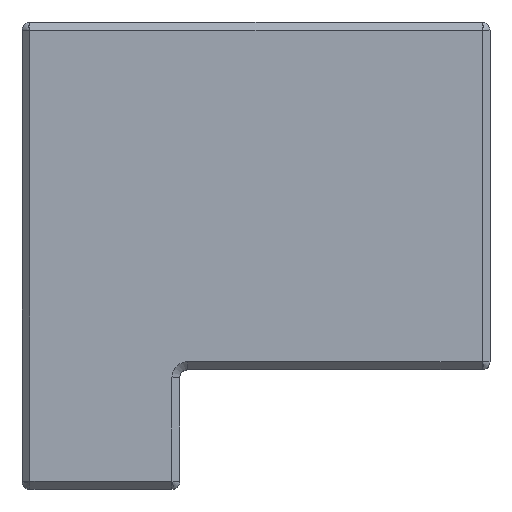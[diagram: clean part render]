
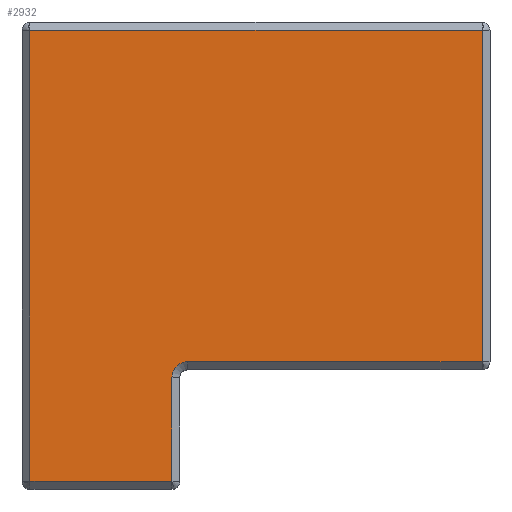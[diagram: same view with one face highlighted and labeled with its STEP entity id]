
A CAD part, top view. The second image highlights one B-rep face of the part: STEP entity #2932.
In plain terms, the highlighted planar face has unit normal (0, 0, 1).
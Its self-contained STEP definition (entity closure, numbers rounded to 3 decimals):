
#654 = PLANE('',#655);
#655 = AXIS2_PLACEMENT_3D('',#656,#657,#658);
#656 = CARTESIAN_POINT('',(71.6,-68.945,18.85));
#657 = DIRECTION('',(0.,0.707,0.707));
#658 = DIRECTION('',(1.,0.,0.));
#1611 = VERTEX_POINT('',#1612);
#1612 = CARTESIAN_POINT('',(71.6,-69.445,19.35));
#1633 = EDGE_CURVE('',#1611,#1634,#1636,.T.);
#1634 = VERTEX_POINT('',#1635);
#1635 = CARTESIAN_POINT('',(128.3,-69.445,19.35));
#1636 = SURFACE_CURVE('',#1637,(#1641,#1648),.PCURVE_S1.);
#1637 = LINE('',#1638,#1639);
#1638 = CARTESIAN_POINT('',(71.6,-69.445,19.35));
#1639 = VECTOR('',#1640,1.);
#1640 = DIRECTION('',(1.,0.,0.));
#1641 = PCURVE('',#654,#1642);
#1642 = DEFINITIONAL_REPRESENTATION('',(#1643),#1647);
#1643 = LINE('',#1644,#1645);
#1644 = CARTESIAN_POINT('',(0.,-0.707));
#1645 = VECTOR('',#1646,1.);
#1646 = DIRECTION('',(1.,0.));
#1647 = ( GEOMETRIC_REPRESENTATION_CONTEXT(2) 
PARAMETRIC_REPRESENTATION_CONTEXT() REPRESENTATION_CONTEXT('2D SPACE',''
  ) );
#1648 = PCURVE('',#1649,#1654);
#1649 = PLANE('',#1650);
#1650 = AXIS2_PLACEMENT_3D('',#1651,#1652,#1653);
#1651 = CARTESIAN_POINT('',(97.462,-95.234,19.35));
#1652 = DIRECTION('',(0.,0.,1.));
#1653 = DIRECTION('',(0.,1.,0.));
#1654 = DEFINITIONAL_REPRESENTATION('',(#1655),#1659);
#1655 = LINE('',#1656,#1657);
#1656 = CARTESIAN_POINT('',(25.789,25.862));
#1657 = VECTOR('',#1658,1.);
#1658 = DIRECTION('',(0.,-1.));
#1659 = ( GEOMETRIC_REPRESENTATION_CONTEXT(2) 
PARAMETRIC_REPRESENTATION_CONTEXT() REPRESENTATION_CONTEXT('2D SPACE',''
  ) );
#2870 = PLANE('',#2871);
#2871 = AXIS2_PLACEMENT_3D('',#2872,#2873,#2874);
#2872 = CARTESIAN_POINT('',(71.1,-126.,18.85));
#2873 = DIRECTION('',(-0.707,0.,0.707));
#2874 = DIRECTION('',(0.,1.,0.));
#2932 = ADVANCED_FACE('',(#2933),#1649,.T.);
#2933 = FACE_BOUND('',#2934,.T.);
#2934 = EDGE_LOOP('',(#2935,#2936,#2959,#2987,#3015,#3044,#3072));
#2935 = ORIENTED_EDGE('',*,*,#1633,.F.);
#2936 = ORIENTED_EDGE('',*,*,#2937,.F.);
#2937 = EDGE_CURVE('',#2938,#1611,#2940,.T.);
#2938 = VERTEX_POINT('',#2939);
#2939 = CARTESIAN_POINT('',(71.6,-126.,19.35));
#2940 = SURFACE_CURVE('',#2941,(#2945,#2952),.PCURVE_S1.);
#2941 = LINE('',#2942,#2943);
#2942 = CARTESIAN_POINT('',(71.6,-126.,19.35));
#2943 = VECTOR('',#2944,1.);
#2944 = DIRECTION('',(0.,1.,0.));
#2945 = PCURVE('',#1649,#2946);
#2946 = DEFINITIONAL_REPRESENTATION('',(#2947),#2951);
#2947 = LINE('',#2948,#2949);
#2948 = CARTESIAN_POINT('',(-30.766,25.862));
#2949 = VECTOR('',#2950,1.);
#2950 = DIRECTION('',(1.,0.));
#2951 = ( GEOMETRIC_REPRESENTATION_CONTEXT(2) 
PARAMETRIC_REPRESENTATION_CONTEXT() REPRESENTATION_CONTEXT('2D SPACE',''
  ) );
#2952 = PCURVE('',#2870,#2953);
#2953 = DEFINITIONAL_REPRESENTATION('',(#2954),#2958);
#2954 = LINE('',#2955,#2956);
#2955 = CARTESIAN_POINT('',(0.,-0.707));
#2956 = VECTOR('',#2957,1.);
#2957 = DIRECTION('',(1.,0.));
#2958 = ( GEOMETRIC_REPRESENTATION_CONTEXT(2) 
PARAMETRIC_REPRESENTATION_CONTEXT() REPRESENTATION_CONTEXT('2D SPACE',''
  ) );
#2959 = ORIENTED_EDGE('',*,*,#2960,.F.);
#2960 = EDGE_CURVE('',#2961,#2938,#2963,.T.);
#2961 = VERTEX_POINT('',#2962);
#2962 = CARTESIAN_POINT('',(89.4,-126.,19.35));
#2963 = SURFACE_CURVE('',#2964,(#2968,#2975),.PCURVE_S1.);
#2964 = LINE('',#2965,#2966);
#2965 = CARTESIAN_POINT('',(89.4,-126.,19.35));
#2966 = VECTOR('',#2967,1.);
#2967 = DIRECTION('',(-1.,0.,0.));
#2968 = PCURVE('',#1649,#2969);
#2969 = DEFINITIONAL_REPRESENTATION('',(#2970),#2974);
#2970 = LINE('',#2971,#2972);
#2971 = CARTESIAN_POINT('',(-30.766,8.062));
#2972 = VECTOR('',#2973,1.);
#2973 = DIRECTION('',(0.,1.));
#2974 = ( GEOMETRIC_REPRESENTATION_CONTEXT(2) 
PARAMETRIC_REPRESENTATION_CONTEXT() REPRESENTATION_CONTEXT('2D SPACE',''
  ) );
#2975 = PCURVE('',#2976,#2981);
#2976 = PLANE('',#2977);
#2977 = AXIS2_PLACEMENT_3D('',#2978,#2979,#2980);
#2978 = CARTESIAN_POINT('',(89.4,-126.5,18.85));
#2979 = DIRECTION('',(0.,-0.707,0.707));
#2980 = DIRECTION('',(-1.,0.,0.));
#2981 = DEFINITIONAL_REPRESENTATION('',(#2982),#2986);
#2982 = LINE('',#2983,#2984);
#2983 = CARTESIAN_POINT('',(0.,-0.707));
#2984 = VECTOR('',#2985,1.);
#2985 = DIRECTION('',(1.,0.));
#2986 = ( GEOMETRIC_REPRESENTATION_CONTEXT(2) 
PARAMETRIC_REPRESENTATION_CONTEXT() REPRESENTATION_CONTEXT('2D SPACE',''
  ) );
#2987 = ORIENTED_EDGE('',*,*,#2988,.F.);
#2988 = EDGE_CURVE('',#2989,#2961,#2991,.T.);
#2989 = VERTEX_POINT('',#2990);
#2990 = CARTESIAN_POINT('',(89.4,-113.,19.35));
#2991 = SURFACE_CURVE('',#2992,(#2996,#3003),.PCURVE_S1.);
#2992 = LINE('',#2993,#2994);
#2993 = CARTESIAN_POINT('',(89.4,-113.,19.35));
#2994 = VECTOR('',#2995,1.);
#2995 = DIRECTION('',(0.,-1.,0.));
#2996 = PCURVE('',#1649,#2997);
#2997 = DEFINITIONAL_REPRESENTATION('',(#2998),#3002);
#2998 = LINE('',#2999,#3000);
#2999 = CARTESIAN_POINT('',(-17.766,8.062));
#3000 = VECTOR('',#3001,1.);
#3001 = DIRECTION('',(-1.,0.));
#3002 = ( GEOMETRIC_REPRESENTATION_CONTEXT(2) 
PARAMETRIC_REPRESENTATION_CONTEXT() REPRESENTATION_CONTEXT('2D SPACE',''
  ) );
#3003 = PCURVE('',#3004,#3009);
#3004 = PLANE('',#3005);
#3005 = AXIS2_PLACEMENT_3D('',#3006,#3007,#3008);
#3006 = CARTESIAN_POINT('',(89.9,-113.,18.85));
#3007 = DIRECTION('',(0.707,0.,0.707));
#3008 = DIRECTION('',(0.,-1.,0.));
#3009 = DEFINITIONAL_REPRESENTATION('',(#3010),#3014);
#3010 = LINE('',#3011,#3012);
#3011 = CARTESIAN_POINT('',(0.,-0.707));
#3012 = VECTOR('',#3013,1.);
#3013 = DIRECTION('',(1.,0.));
#3014 = ( GEOMETRIC_REPRESENTATION_CONTEXT(2) 
PARAMETRIC_REPRESENTATION_CONTEXT() REPRESENTATION_CONTEXT('2D SPACE',''
  ) );
#3015 = ORIENTED_EDGE('',*,*,#3016,.F.);
#3016 = EDGE_CURVE('',#3017,#2989,#3019,.T.);
#3017 = VERTEX_POINT('',#3018);
#3018 = CARTESIAN_POINT('',(91.4,-111.,19.35));
#3019 = SURFACE_CURVE('',#3020,(#3025,#3032),.PCURVE_S1.);
#3020 = CIRCLE('',#3021,2.);
#3021 = AXIS2_PLACEMENT_3D('',#3022,#3023,#3024);
#3022 = CARTESIAN_POINT('',(91.4,-113.,19.35));
#3023 = DIRECTION('',(0.,0.,1.));
#3024 = DIRECTION('',(0.,1.,0.));
#3025 = PCURVE('',#1649,#3026);
#3026 = DEFINITIONAL_REPRESENTATION('',(#3027),#3031);
#3027 = CIRCLE('',#3028,2.);
#3028 = AXIS2_PLACEMENT_2D('',#3029,#3030);
#3029 = CARTESIAN_POINT('',(-17.766,6.062));
#3030 = DIRECTION('',(1.,0.));
#3031 = ( GEOMETRIC_REPRESENTATION_CONTEXT(2) 
PARAMETRIC_REPRESENTATION_CONTEXT() REPRESENTATION_CONTEXT('2D SPACE',''
  ) );
#3032 = PCURVE('',#3033,#3038);
#3033 = CONICAL_SURFACE('',#3034,1.,0.785);
#3034 = AXIS2_PLACEMENT_3D('',#3035,#3036,#3037);
#3035 = CARTESIAN_POINT('',(91.4,-113.,18.35));
#3036 = DIRECTION('',(0.,0.,1.));
#3037 = DIRECTION('',(0.,1.,0.));
#3038 = DEFINITIONAL_REPRESENTATION('',(#3039),#3043);
#3039 = LINE('',#3040,#3041);
#3040 = CARTESIAN_POINT('',(-0.,1.));
#3041 = VECTOR('',#3042,1.);
#3042 = DIRECTION('',(1.,-0.));
#3043 = ( GEOMETRIC_REPRESENTATION_CONTEXT(2) 
PARAMETRIC_REPRESENTATION_CONTEXT() REPRESENTATION_CONTEXT('2D SPACE',''
  ) );
#3044 = ORIENTED_EDGE('',*,*,#3045,.F.);
#3045 = EDGE_CURVE('',#3046,#3017,#3048,.T.);
#3046 = VERTEX_POINT('',#3047);
#3047 = CARTESIAN_POINT('',(128.3,-111.,19.35));
#3048 = SURFACE_CURVE('',#3049,(#3053,#3060),.PCURVE_S1.);
#3049 = LINE('',#3050,#3051);
#3050 = CARTESIAN_POINT('',(128.3,-111.,19.35));
#3051 = VECTOR('',#3052,1.);
#3052 = DIRECTION('',(-1.,0.,0.));
#3053 = PCURVE('',#1649,#3054);
#3054 = DEFINITIONAL_REPRESENTATION('',(#3055),#3059);
#3055 = LINE('',#3056,#3057);
#3056 = CARTESIAN_POINT('',(-15.766,-30.838));
#3057 = VECTOR('',#3058,1.);
#3058 = DIRECTION('',(0.,1.));
#3059 = ( GEOMETRIC_REPRESENTATION_CONTEXT(2) 
PARAMETRIC_REPRESENTATION_CONTEXT() REPRESENTATION_CONTEXT('2D SPACE',''
  ) );
#3060 = PCURVE('',#3061,#3066);
#3061 = PLANE('',#3062);
#3062 = AXIS2_PLACEMENT_3D('',#3063,#3064,#3065);
#3063 = CARTESIAN_POINT('',(128.3,-111.5,18.85));
#3064 = DIRECTION('',(0.,-0.707,0.707));
#3065 = DIRECTION('',(-1.,0.,0.));
#3066 = DEFINITIONAL_REPRESENTATION('',(#3067),#3071);
#3067 = LINE('',#3068,#3069);
#3068 = CARTESIAN_POINT('',(0.,-0.707));
#3069 = VECTOR('',#3070,1.);
#3070 = DIRECTION('',(1.,0.));
#3071 = ( GEOMETRIC_REPRESENTATION_CONTEXT(2) 
PARAMETRIC_REPRESENTATION_CONTEXT() REPRESENTATION_CONTEXT('2D SPACE',''
  ) );
#3072 = ORIENTED_EDGE('',*,*,#3073,.F.);
#3073 = EDGE_CURVE('',#1634,#3046,#3074,.T.);
#3074 = SURFACE_CURVE('',#3075,(#3079,#3086),.PCURVE_S1.);
#3075 = LINE('',#3076,#3077);
#3076 = CARTESIAN_POINT('',(128.3,-69.445,19.35));
#3077 = VECTOR('',#3078,1.);
#3078 = DIRECTION('',(0.,-1.,0.));
#3079 = PCURVE('',#1649,#3080);
#3080 = DEFINITIONAL_REPRESENTATION('',(#3081),#3085);
#3081 = LINE('',#3082,#3083);
#3082 = CARTESIAN_POINT('',(25.789,-30.838));
#3083 = VECTOR('',#3084,1.);
#3084 = DIRECTION('',(-1.,0.));
#3085 = ( GEOMETRIC_REPRESENTATION_CONTEXT(2) 
PARAMETRIC_REPRESENTATION_CONTEXT() REPRESENTATION_CONTEXT('2D SPACE',''
  ) );
#3086 = PCURVE('',#3087,#3092);
#3087 = PLANE('',#3088);
#3088 = AXIS2_PLACEMENT_3D('',#3089,#3090,#3091);
#3089 = CARTESIAN_POINT('',(128.8,-69.445,18.85));
#3090 = DIRECTION('',(0.707,0.,0.707));
#3091 = DIRECTION('',(0.,-1.,0.));
#3092 = DEFINITIONAL_REPRESENTATION('',(#3093),#3097);
#3093 = LINE('',#3094,#3095);
#3094 = CARTESIAN_POINT('',(0.,-0.707));
#3095 = VECTOR('',#3096,1.);
#3096 = DIRECTION('',(1.,0.));
#3097 = ( GEOMETRIC_REPRESENTATION_CONTEXT(2) 
PARAMETRIC_REPRESENTATION_CONTEXT() REPRESENTATION_CONTEXT('2D SPACE',''
  ) );
